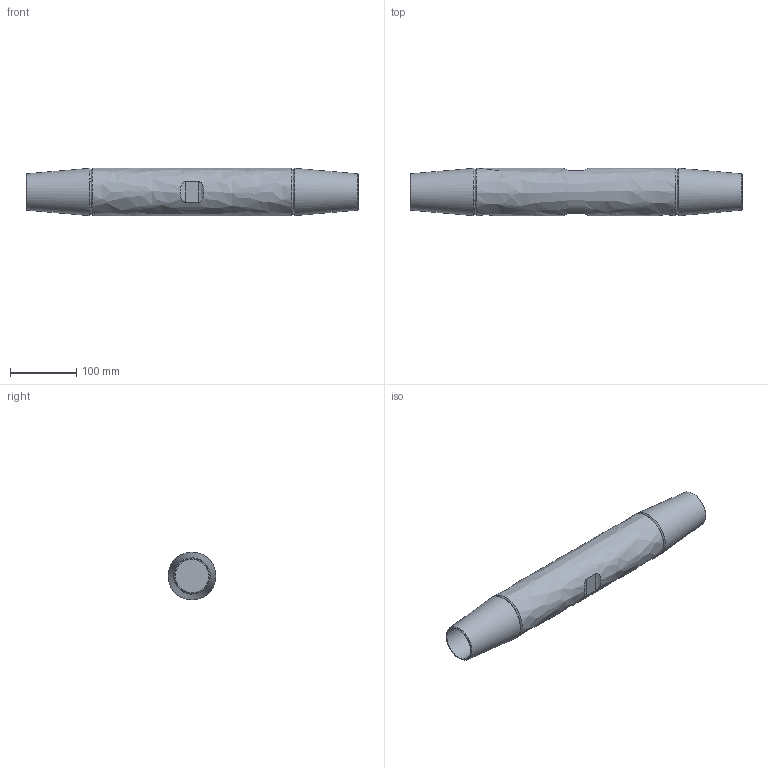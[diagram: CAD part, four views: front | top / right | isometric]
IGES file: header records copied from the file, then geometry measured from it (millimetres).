
Global section: file name: 520-048-MUF; native system: Autodesk Inventor 2016; preprocessor: unknown; author: Administrator; date: 20200630.131754; units: centimetre
Bounding box: 502 x 72 x 72 mm (x, y, z)
Volume: 1566755.6 mm3; surface area: 137128.4 mm2
Topology: 1 solids, 1 shells, 21 faces, 53 edges, 37 vertices
Faces by surface type: bspline 21
